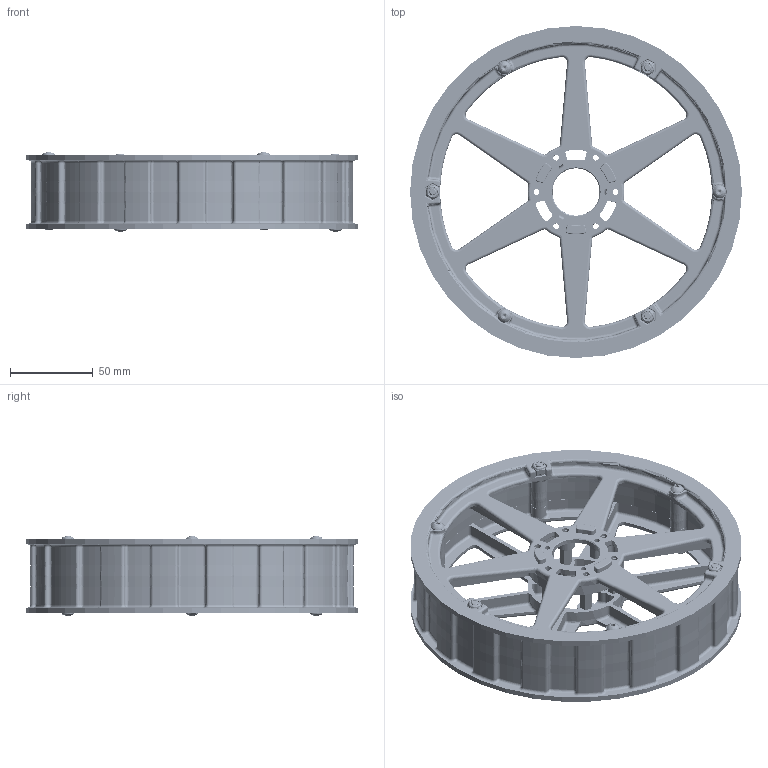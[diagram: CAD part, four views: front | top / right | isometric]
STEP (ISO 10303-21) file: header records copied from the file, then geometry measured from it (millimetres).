
FILE_DESCRIPTION (( 'STEP AP203' ), '1' );
FILE_NAME ('217-2605 1.5in.20121203.STEP', '2012-12-03T22:29:00', ( 'svradm' ), ( 'Microsoft' ), 'SwSTEP 2.0', 'SolidWorks 2012', '' );
FILE_SCHEMA (( 'CONFIG_CONTROL_DESIGN' ));
Length unit declared in the file: inch
Products named in the file (6): 217-2605 1.5in.20121203; 217-2588-006 Rev1; 217-2605-003 Rev1; 217-2605-001 Rev1; NUT-832-NYLOCK; SBS1_SBS0832-1750SS
Assembly tree (21 placements, depth 2):
  217-2605 1.5in.20121203
    SBS1_SBS0832-1750SS  x6
    NUT-832-NYLOCK  x6
    217-2605-001 Rev1  x2
    217-2605-003 Rev1
    217-2588-006 Rev1  x6
Bounding box: 200.03 x 200.03 x 47.62 mm (x, y, z)
Volume: 296245 mm3; surface area: 173616.4 mm2
Topology: 21 solids, 21 shells, 3954 faces, 9624 edges, 5704 vertices
Faces by surface type: cylinder 1202, torus 860, plane 748, cone 650, bspline 288, sphere 206
Entity records: 72155 total; most frequent: CARTESIAN_POINT 18916, DIRECTION 12165, ORIENTED_EDGE 10418, EDGE_CURVE 5209, AXIS2_PLACEMENT_3D 5207, VERTEX_POINT 3121, CIRCLE 3108, EDGE_LOOP 2392
